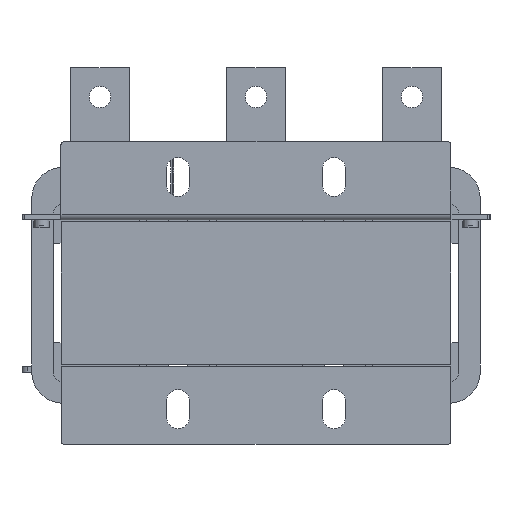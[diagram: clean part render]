
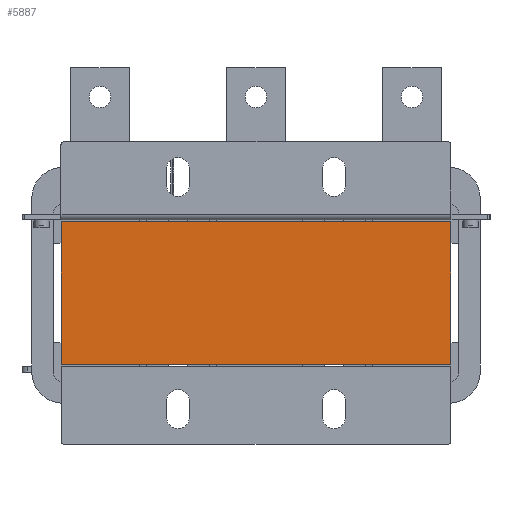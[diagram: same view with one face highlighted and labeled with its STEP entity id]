
A CAD part, front view. The second image highlights one B-rep face of the part: STEP entity #5887.
In plain terms, the highlighted planar face has unit normal (0, -1, 0).
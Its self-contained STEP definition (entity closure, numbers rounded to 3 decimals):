
#5887=ADVANCED_FACE('',(#8914),#8916,.F.);
#8914=FACE_BOUND('',#8915,.T.);
#8915=EDGE_LOOP('',(#14319,#14320,#14321,#14322));
#8916=PLANE('',#8917);
#8917=AXIS2_PLACEMENT_3D('',#8918,#8919,#8920);
#8918=CARTESIAN_POINT('',(-100.,-102.5,36.5));
#8919=DIRECTION('',(0.,1.,0.));
#8920=DIRECTION('',(0.,0.,1.));
#14319=ORIENTED_EDGE('',*,*,#15362,.T.);
#14320=ORIENTED_EDGE('',*,*,#15355,.F.);
#14321=ORIENTED_EDGE('',*,*,#15363,.F.);
#14322=ORIENTED_EDGE('',*,*,#15360,.T.);
#15355=EDGE_CURVE('',#16565,#16560,#16567,.T.);
#15360=EDGE_CURVE('',#16575,#16573,#16576,.T.);
#15362=EDGE_CURVE('',#16573,#16560,#16578,.T.);
#15363=EDGE_CURVE('',#16575,#16565,#16579,.T.);
#16560=VERTEX_POINT('',#20526);
#16565=VERTEX_POINT('',#20535);
#16567=LINE('',#20539,#20540);
#16573=VERTEX_POINT('',#20553);
#16575=VERTEX_POINT('',#20557);
#16576=LINE('',#20558,#20559);
#16578=LINE('',#20564,#20565);
#16579=LINE('',#20567,#20568);
#20526=CARTESIAN_POINT('',(100.,-102.5,-36.5));
#20535=CARTESIAN_POINT('',(100.,-102.5,36.5));
#20539=CARTESIAN_POINT('',(100.,-102.5,36.5));
#20540=VECTOR('',#20541,1.);
#20541=DIRECTION('',(0.,0.,-1.));
#20553=CARTESIAN_POINT('',(-100.,-102.5,-36.5));
#20557=CARTESIAN_POINT('',(-100.,-102.5,36.5));
#20558=CARTESIAN_POINT('',(-100.,-102.5,36.5));
#20559=VECTOR('',#20560,1.);
#20560=DIRECTION('',(0.,0.,-1.));
#20564=CARTESIAN_POINT('',(-100.,-102.5,-36.5));
#20565=VECTOR('',#20566,1.);
#20566=DIRECTION('',(1.,0.,0.));
#20567=CARTESIAN_POINT('',(-100.,-102.5,36.5));
#20568=VECTOR('',#20569,1.);
#20569=DIRECTION('',(1.,0.,0.));
